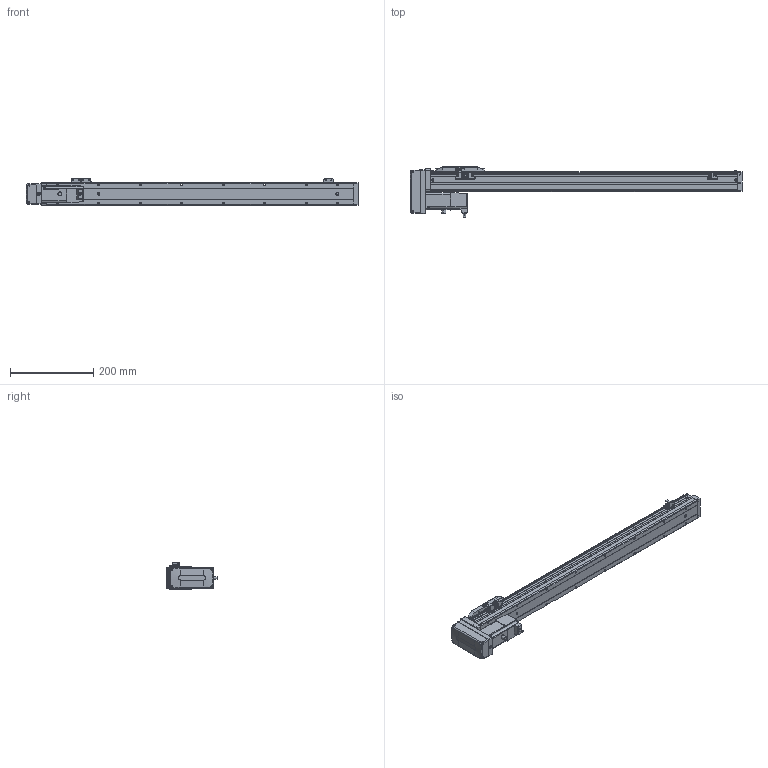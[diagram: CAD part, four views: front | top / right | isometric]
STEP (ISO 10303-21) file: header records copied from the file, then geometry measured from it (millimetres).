
FILE_DESCRIPTION (( 'STEP AP203' ), '1' );
FILE_NAME ('CTH5-L10-S600-BM-C10(¼ò).STEP', '2023-02-04T02:21:02', ( '' ), ( '' ), 'SwSTEP 2.0', 'SolidWorks 2018', '' );
FILE_SCHEMA (( 'CONFIG_CONTROL_DESIGN' ));
Length unit declared in the file: millimetre
Products named in the file (22): CTH5耜蚾蟀諉啣(潠); CTH5耜晚蹟隊-1; CTH5耜晚蹟隊; 嫖萇羲壽郪磁1; T10-p1; CTH5綴耜啣; CTH100W假蚾啣; 内六角圆柱头螺钉M3-2; CTH嫖萇羲壽假蚾啣; hex nuts, style 1-grades ab gb_GB_FASTENER_NUT_SNAB1 M3-N; CTH5菁釱-L740; 葩璃 蚾饜极16^CTH5-L10-S600-BM-C10(潠); CTH5ヶ耜啣(潠); CTH5覜茼え; CTH5耜蚾欶; M3｡｣; 葩璃 蚾饜极13^CTH8-L10-S50-BM-C40(潠)1; 100W萇儂; PM-Y45; CTH5-BL-T10_body5; CTH5-L10-S600-BM-C10(潠); CTH5賑怢
Assembly tree (37 placements, depth 4):
  CTH5-L10-S600-BM-C10(潠)
    CTH5綴耜啣
    CTH5賑怢
    CTH5ヶ耜啣(潠)
    CTH5菁釱-L740
    CTH5耜晚蹟隊  x2
    嫖萇羲壽郪磁1  x2
      CTH嫖萇羲壽假蚾啣
      PM-Y45
      M3｡｣
      内六角圆柱头螺钉M3-2
      hex nuts, style 1-grades ab gb_GB_FASTENER_NUT_SNAB1 M3-N
    CTH5覜茼え
    葩璃 蚾饜极13^CTH8-L10-S50-BM-C40(潠)1
      CTH嫖萇羲壽假蚾啣
      PM-Y45
      内六角圆柱头螺钉M3-2  x2
      M3｡｣  x2
      hex nuts, style 1-grades ab gb_GB_FASTENER_NUT_SNAB1 M3-N  x2
    CTH5耜晚蹟隊-1  x4
    葩璃 蚾饜极16^CTH5-L10-S600-BM-C10(潠)
      CTH5耜蚾蟀諉啣(潠)
      CTH5耜蚾欶
        CTH5-BL-T10_body5
      100W萇儂
        T10-p1
      CTH100W假蚾啣
Bounding box: 800 x 122.21 x 63.3 mm (x, y, z)
Volume: 1971947 mm3; surface area: 279714 mm2
Topology: 39 solids, 39 shells, 1619 faces, 4067 edges, 2624 vertices
Faces by surface type: plane 890, cylinder 472, cone 199, torus 40, bspline 18
Entity records: 37873 total; most frequent: CARTESIAN_POINT 7016, DIRECTION 5991, ORIENTED_EDGE 5758, EDGE_CURVE 2879, AXIS2_PLACEMENT_3D 2066, LINE 1859, VECTOR 1859, VERTEX_POINT 1852
